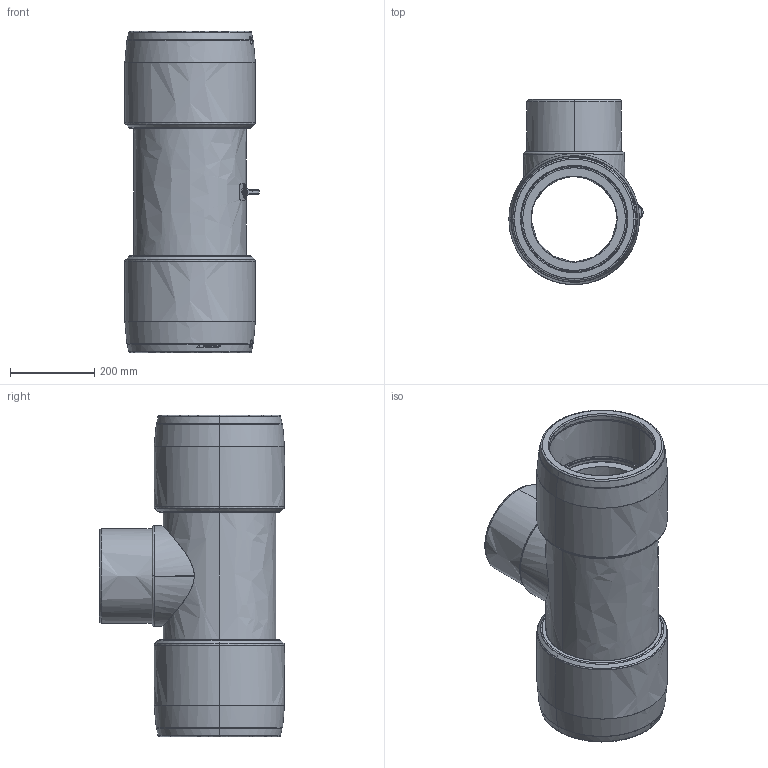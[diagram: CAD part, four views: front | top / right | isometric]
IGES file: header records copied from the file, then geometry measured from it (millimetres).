
Start section:  PTC IGES file: t-red-xl_d250-225.igs
Global section: file name: t-red-xl_d250-225.igs; native system: Pro/ENGINEER by Parametric Technology Corporation; preprocessor: 2011490; author: mtunjic; organization: Unknown; date: 20130729.145316; units: millimetre
Bounding box: 318.99 x 440 x 764 mm (x, y, z)
Surface area: 1803477.8 mm2 (no closed solid volume)
Topology: 0 solids, 0 shells, 530 faces, 2666 edges, 2666 vertices
Faces by surface type: bspline 530
